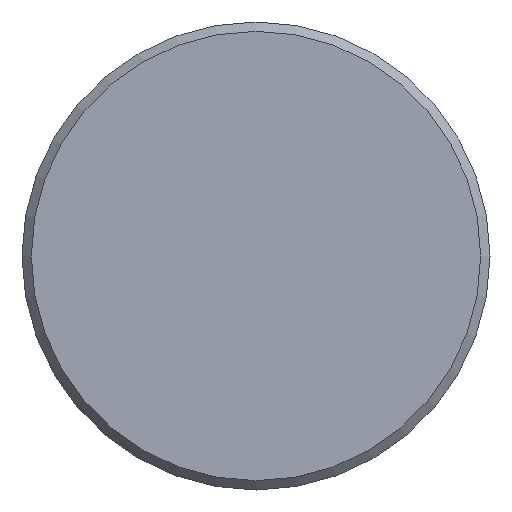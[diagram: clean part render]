
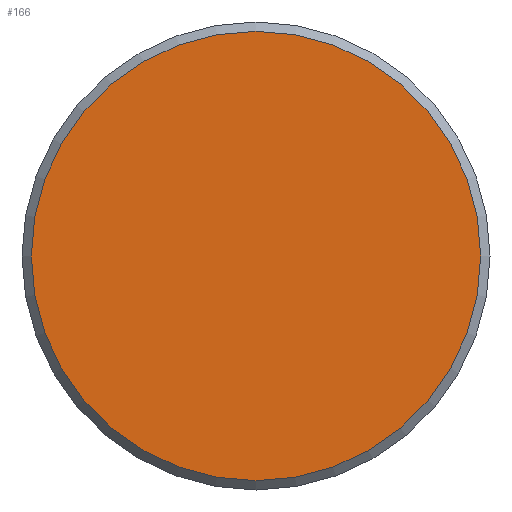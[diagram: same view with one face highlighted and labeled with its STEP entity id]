
A CAD part, front view. The second image highlights one B-rep face of the part: STEP entity #166.
In plain terms, the highlighted planar face has unit normal (0, -1, 0).
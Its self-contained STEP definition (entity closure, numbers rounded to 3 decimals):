
#166 = ADVANCED_FACE( '', ( #332 ), #333, .F. );
#332 = FACE_OUTER_BOUND( '', #528, .T. );
#333 = PLANE( '', #529 );
#528 = EDGE_LOOP( '', ( #806 ) );
#529 = AXIS2_PLACEMENT_3D( '', #807, #808, #809 );
#806 = ORIENTED_EDGE( '', *, *, #1192, .T. );
#807 = CARTESIAN_POINT( '', ( 12., 0., 0. ) );
#808 = DIRECTION( '', ( 0., 1., 0. ) );
#809 = DIRECTION( '', ( 0., 0., 1. ) );
#1192 = EDGE_CURVE( '', #1393, #1393, #1394, .T. );
#1393 = VERTEX_POINT( '', #1752 );
#1394 = CIRCLE( '', #1753, 12. );
#1752 = CARTESIAN_POINT( '', ( 0., 0., -12. ) );
#1753 = AXIS2_PLACEMENT_3D( '', #2106, #2107, #2108 );
#2106 = CARTESIAN_POINT( '', ( 0., 0., 0. ) );
#2107 = DIRECTION( '', ( 0., -1., 0. ) );
#2108 = DIRECTION( '', ( 0., 0., -1. ) );
